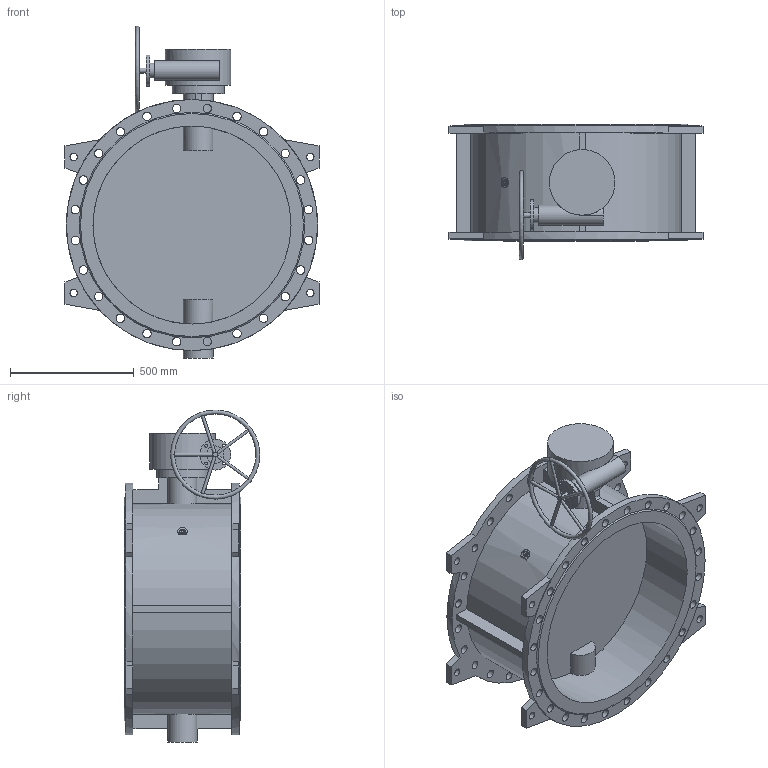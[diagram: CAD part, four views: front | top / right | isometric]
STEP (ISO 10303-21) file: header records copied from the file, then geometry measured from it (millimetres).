
FILE_DESCRIPTION(('STEP AP203'), '1');
FILE_NAME('Çàòâîð 023F.Z DN800 PN10_ìàõ', '', ('UNSPECIFIED'), ('UNSPECIFIED'), 'ASCON STEP Converter 1.6', 'ASCON Math Kernel', '');
FILE_SCHEMA(('CONFIG_CONTROL_DESIGN'));
Length unit declared in the file: millimetre
Bounding box: 1026 x 547.21 x 1340.99 mm (x, y, z)
Volume: 95391121.9 mm3; surface area: 5296410.7 mm2
Topology: 1 solids, 1 shells, 197 faces, 536 edges, 358 vertices
Faces by surface type: cylinder 104, plane 90, cone 2, torus 1
Full cylindrical faces by diameter (mm): 12 x9, 18.5 x4, 20 x2, 23 x4, 30 x8, 34 x48, 60 x1, 70 x1, 80 x1, 120 x1, 125 x1, 210 x1, 265 x1, 800 x2, 1015 x2
Entity records: 10945 total; most frequent: CARTESIAN_POINT 4384, DIRECTION 993, ORIENTED_EDGE 886, EDGE_CURVE 443, EDGE_LOOP 433, AXIS2_PLACEMENT_3D 406, VERTEX_POINT 356, FACE_BOUND 274
